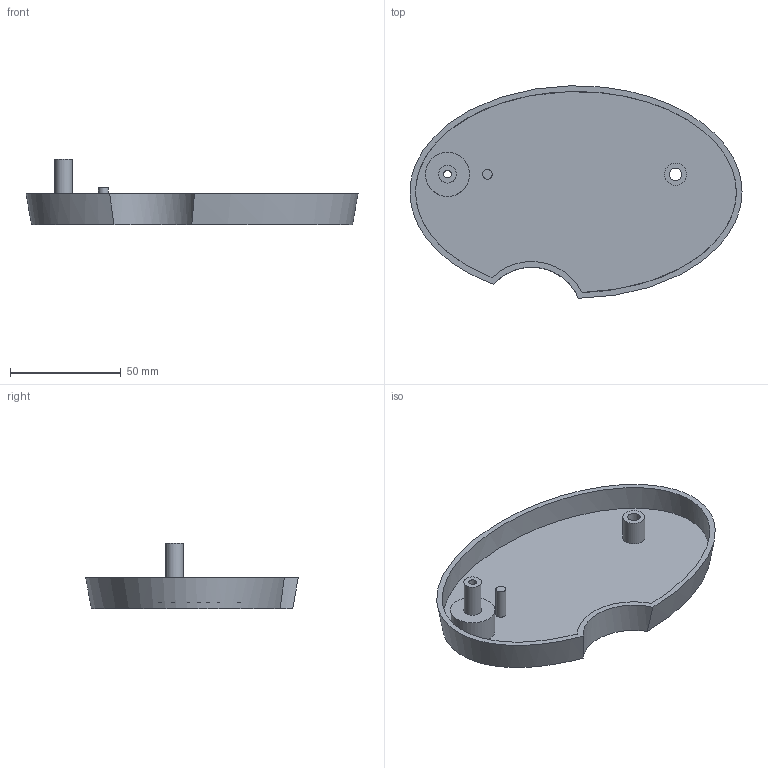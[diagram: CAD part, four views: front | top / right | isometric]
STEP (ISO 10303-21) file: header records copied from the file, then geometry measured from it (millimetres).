
FILE_DESCRIPTION(('Open CASCADE Model'),'2;1');
FILE_NAME('Open CASCADE Shape Model','2026-09-13T15:28:55',('Author'),( 'Open CASCADE'),'Open CASCADE STEP processor 7.9','build123d', 'Unknown');
FILE_SCHEMA(('AUTOMOTIVE_DESIGN { 1 0 10303 214 1 1 1 1 }'));
Length unit declared in the file: millimetre
Products named in the file (2): =>[0:1:1:2]; COMPOUND
Assembly tree (1 placements, depth 2):
  =>[0:1:1:2]
    COMPOUND
Bounding box: 149.94 x 95.97 x 29.5 mm (x, y, z)
Volume: 38744.2 mm3; surface area: 33139.8 mm2
Topology: 1 solids, 1 shells, 24 faces, 51 edges, 35 vertices
Faces by surface type: plane 14, cylinder 8, bspline 1, extrusion 1
Full cylindrical faces by diameter (mm): 3.4 x1, 4.4 x1, 5.6 x1, 8 x1, 10 x1, 20 x1
Entity records: 1973 total; most frequent: CARTESIAN_POINT 869, DIRECTION 205, ORIENTED_EDGE 102, PCURVE 102, DEFINITIONAL_REPRESENTATION 102, VECTOR 89, LINE 88, EDGE_CURVE 51
